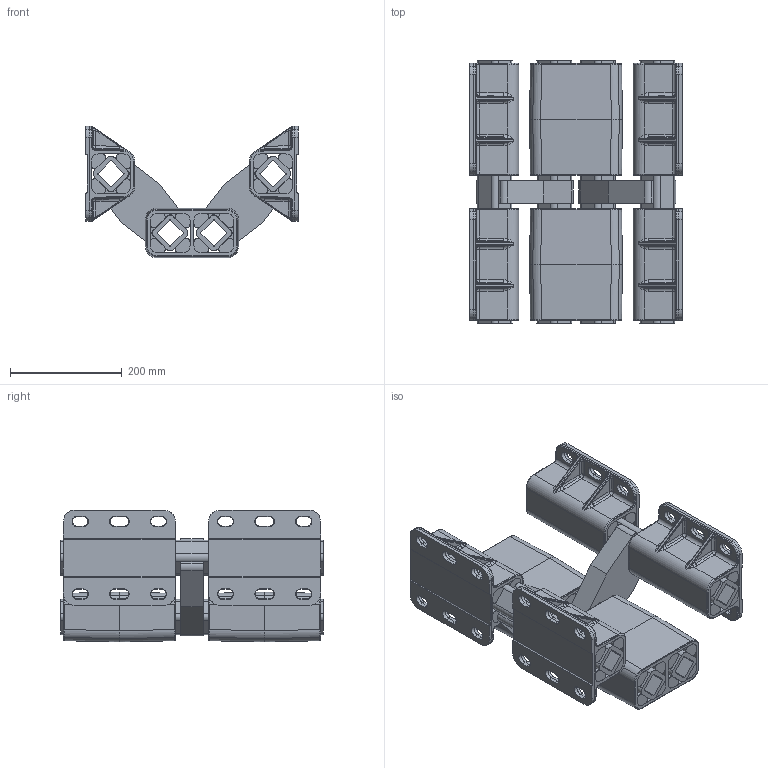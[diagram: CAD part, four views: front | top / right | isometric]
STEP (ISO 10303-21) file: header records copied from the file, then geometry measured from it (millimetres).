
FILE_DESCRIPTION((''),'2;1');
FILE_NAME('\\rostaofc\data\uw\save\daten_f\Normprogramm 3D\Schwingfördertechnologie\AB50-2-TWIN_07051009.stp','2006-10-24T12:56:28',('uw'),(''),'Autodesk Inventor 8','Autodesk Inventor 8','');
FILE_SCHEMA(('AUTOMOTIVE_DESIGN { 1 0 10303 214 1 1 1 1 }'));
Length unit declared in the file: millimetre
Products named in the file (7): ROSTA-Schwingelement AB50x400; Aussengehäuse DO50x200; Innenteil AB50x400; Hebel zu AB50x400; Innenrohr; 3_4_7958-001; Gummi
Assembly tree (43 placements, depth 3):
  ROSTA-Schwingelement AB50x400
    Aussengehäuse DO50x200  x2
    Innenteil AB50x400  x2
      Hebel zu AB50x400
      Innenrohr
    3_4_7958-001  x4
    Gummi  x32
Bounding box: 380.13 x 470 x 235.31 mm (x, y, z)
Volume: 10819360.7 mm3; surface area: 2333677.8 mm2
Topology: 44 solids, 44 shells, 2092 faces, 5156 edges, 3168 vertices
Faces by surface type: plane 980, cylinder 776, bspline 208, cone 80, torus 48
Entity records: 21479 total; most frequent: CARTESIAN_POINT 5676, DIRECTION 3428, ORIENTED_EDGE 3116, EDGE_CURVE 1558, AXIS2_PLACEMENT_3D 1260, VERTEX_POINT 980, VECTOR 908, LINE 908
